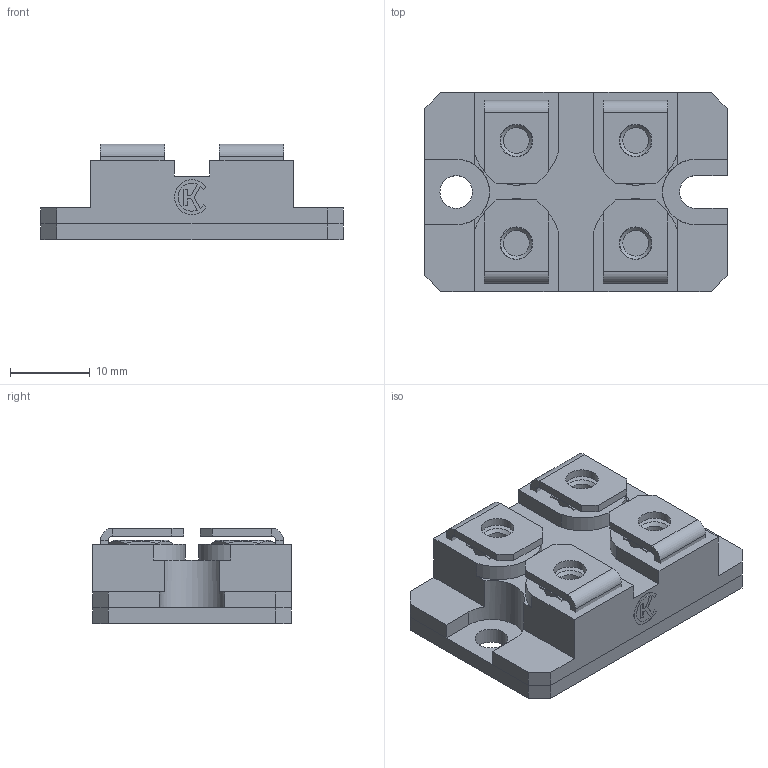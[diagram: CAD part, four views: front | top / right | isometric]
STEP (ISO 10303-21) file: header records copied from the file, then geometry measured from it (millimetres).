
FILE_DESCRIPTION(('STEP AP203'), '1');
FILE_NAME('Ð1-150Ì-100(200)-4', '', ('UNSPECIFIED'), ('UNSPECIFIED'), 'C3D Converter', 'C3D Toolkit', '');
FILE_SCHEMA(('CONFIG_CONTROL_DESIGN'));
Length unit declared in the file: millimetre
Products named in the file (7): -01
Assembly tree (10 placements, depth 2):
  (unnamed)
    (unnamed)
    (unnamed)  x2
    (unnamed)  x2
    -01  x2
    (unnamed)  x2
    (unnamed)
Bounding box: 38 x 25 x 12 mm (x, y, z)
Volume: 7214.2 mm3; surface area: 6754 mm2
Topology: 10 solids, 10 shells, 220 faces, 550 edges, 356 vertices
Faces by surface type: plane 176, cylinder 28, cone 16
Full cylindrical faces by diameter (mm): 3.242 x4, 4.1 x5
Entity records: 7536 total; most frequent: CARTESIAN_POINT 1936, ORIENTED_EDGE 794, DIRECTION 767, EDGE_CURVE 397, LINE 313, VECTOR 313, VERTEX_POINT 268, AXIS2_PLACEMENT_3D 227
